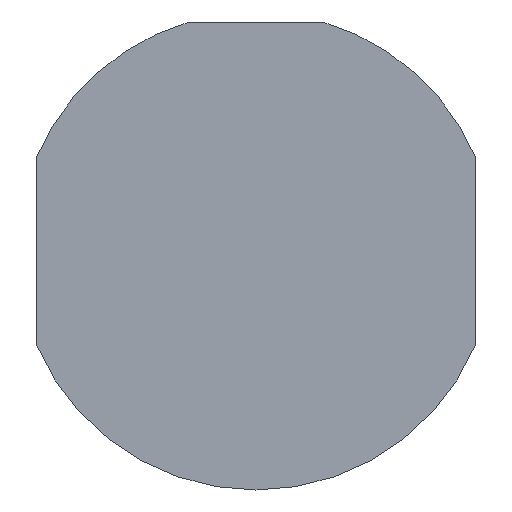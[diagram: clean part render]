
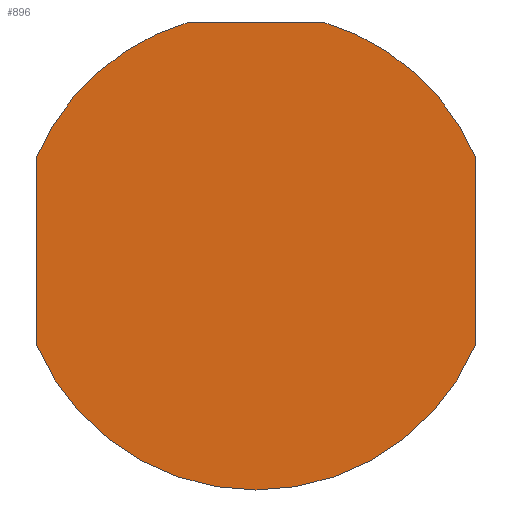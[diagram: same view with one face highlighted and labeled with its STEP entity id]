
A CAD part, front view. The second image highlights one B-rep face of the part: STEP entity #896.
In plain terms, the highlighted planar face has unit normal (0, -1, 0).
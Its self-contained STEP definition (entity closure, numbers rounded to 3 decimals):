
#72=PLANE('',#1038);
#133=FACE_OUTER_BOUND('',#207,.T.);
#207=EDGE_LOOP('',(#754,#755,#756,#757,#758,#759));
#266=CIRCLE('',#999,25.);
#267=CIRCLE('',#1001,25.);
#285=CIRCLE('',#1039,25.);
#325=LINE('',#1604,#371);
#329=LINE('',#1621,#375);
#332=LINE('',#1631,#378);
#371=VECTOR('',#1187,10.);
#375=VECTOR('',#1205,10.);
#378=VECTOR('',#1216,10.);
#429=VERTEX_POINT('',#1598);
#431=VERTEX_POINT('',#1602);
#433=VERTEX_POINT('',#1608);
#434=VERTEX_POINT('',#1612);
#436=VERTEX_POINT('',#1618);
#440=VERTEX_POINT('',#1630);
#524=EDGE_CURVE('',#429,#431,#325,.T.);
#527=EDGE_CURVE('',#433,#431,#266,.T.);
#528=EDGE_CURVE('',#429,#434,#267,.T.);
#532=EDGE_CURVE('',#433,#436,#329,.T.);
#537=EDGE_CURVE('',#440,#434,#332,.T.);
#561=EDGE_CURVE('',#440,#436,#285,.T.);
#754=ORIENTED_EDGE('',*,*,#524,.T.);
#755=ORIENTED_EDGE('',*,*,#527,.F.);
#756=ORIENTED_EDGE('',*,*,#532,.T.);
#757=ORIENTED_EDGE('',*,*,#561,.F.);
#758=ORIENTED_EDGE('',*,*,#537,.T.);
#759=ORIENTED_EDGE('',*,*,#528,.F.);
#896=ADVANCED_FACE('',(#133),#72,.T.);
#999=AXIS2_PLACEMENT_3D('',#1610,#1193,#1194);
#1001=AXIS2_PLACEMENT_3D('',#1613,#1197,#1198);
#1038=AXIS2_PLACEMENT_3D('',#1685,#1286,#1287);
#1039=AXIS2_PLACEMENT_3D('',#1686,#1288,#1289);
#1187=DIRECTION('',(-1.,0.,0.));
#1193=DIRECTION('center_axis',(0.,1.,0.));
#1194=DIRECTION('ref_axis',(1.,0.,0.));
#1197=DIRECTION('center_axis',(0.,1.,0.));
#1198=DIRECTION('ref_axis',(1.,0.,0.));
#1205=DIRECTION('',(0.,0.,-1.));
#1216=DIRECTION('',(0.,0.,1.));
#1286=DIRECTION('center_axis',(0.,-1.,0.));
#1287=DIRECTION('ref_axis',(0.,0.,-1.));
#1288=DIRECTION('center_axis',(0.,1.,0.));
#1289=DIRECTION('ref_axis',(1.,0.,0.));
#1598=CARTESIAN_POINT('',(7.,-52.,24.));
#1602=CARTESIAN_POINT('',(-7.,-52.,24.));
#1604=CARTESIAN_POINT('',(-12.5,-52.,24.));
#1608=CARTESIAN_POINT('',(-23.,-52.,9.798));
#1610=CARTESIAN_POINT('Origin',(0.,-52.,0.));
#1612=CARTESIAN_POINT('',(23.,-52.,9.798));
#1613=CARTESIAN_POINT('Origin',(0.,-52.,0.));
#1618=CARTESIAN_POINT('',(-23.,-52.,-9.798));
#1621=CARTESIAN_POINT('',(-23.,-52.,0.));
#1630=CARTESIAN_POINT('',(23.,-52.,-9.798));
#1631=CARTESIAN_POINT('',(23.,-52.,0.));
#1685=CARTESIAN_POINT('Origin',(-25.,-52.,0.));
#1686=CARTESIAN_POINT('Origin',(0.,-52.,0.));
